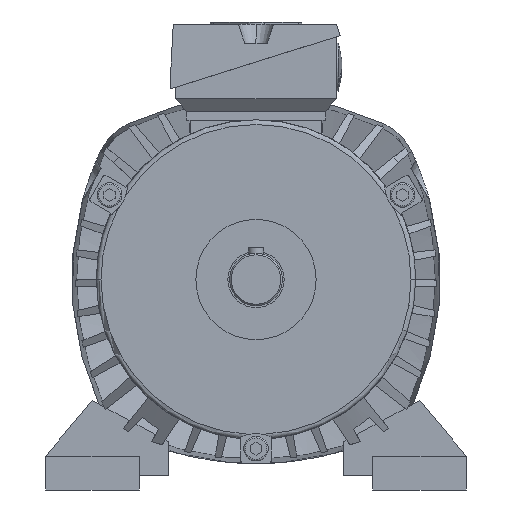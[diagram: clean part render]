
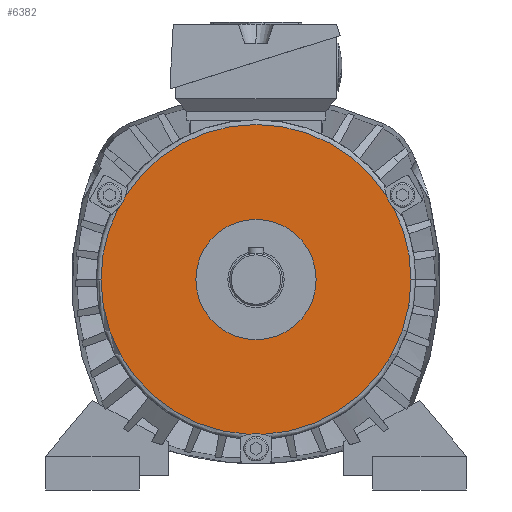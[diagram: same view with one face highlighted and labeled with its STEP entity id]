
A CAD part, front view. The second image highlights one B-rep face of the part: STEP entity #6382.
In plain terms, the highlighted planar face has unit normal (0, -1, 0).
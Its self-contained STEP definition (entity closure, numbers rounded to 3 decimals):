
#2546=VERTEX_POINT('',#7396);
#2630=VERTEX_POINT('',#7491);
#2770=VERTEX_POINT('',#7643);
#3288=EDGE_CURVE('',#3354,#2770,#8212,.T.);
#3354=VERTEX_POINT('',#8291);
#3416=EDGE_CURVE('',#5474,#6082,#8362,.T.);
#3642=EDGE_CURVE('',#2546,#5402,#8610,.T.);
#3882=VERTEX_POINT('',#8874);
#4908=EDGE_CURVE('',#3354,#6006,#9990,.T.);
#5024=EDGE_CURVE('',#3882,#2630,#10112,.T.);
#5402=VERTEX_POINT('',#10519);
#5404=EDGE_CURVE('',#5474,#2770,#10521,.T.);
#5458=VERTEX_POINT('',#10579);
#5474=VERTEX_POINT('',#10596);
#5750=EDGE_CURVE('',#6006,#2630,#10898,.T.);
#5994=EDGE_CURVE('',#5402,#2546,#11164,.T.);
#6006=VERTEX_POINT('',#11176);
#6060=EDGE_CURVE('',#3882,#5458,#11242,.T.);
#6082=VERTEX_POINT('',#11267);
#6382=ADVANCED_FACE('',(#11595,#11596),#11597,.T.);
#6488=EDGE_CURVE('',#5458,#6082,#11715,.T.);
#7396=CARTESIAN_POINT('',(0.,-30.0,-32.0));
#7491=CARTESIAN_POINT('',(3.996,-30.0,-82.403));
#7643=CARTESIAN_POINT('',(69.365,-30.0,44.662));
#8212=CIRCLE('',#14509,20.0);
#8291=CARTESIAN_POINT('',(73.361,-30.0,37.741));
#8362=CIRCLE('',#14720,20.0);
#8610=CIRCLE('',#15061,32.0);
#8874=CARTESIAN_POINT('',(-3.996,-30.0,-82.403));
#9990=CIRCLE('',#17531,82.5);
#10112=CIRCLE('',#17721,20.0);
#10519=CARTESIAN_POINT('',(0.0,-30.0,32.0));
#10521=CIRCLE('',#18425,82.5);
#10579=CARTESIAN_POINT('',(-82.5,-30.0,0.));
#10596=CARTESIAN_POINT('',(-69.365,-30.0,44.662));
#10898=CIRCLE('',#19194,82.5);
#11164=CIRCLE('',#19719,32.0);
#11176=CARTESIAN_POINT('',(82.5,-30.0,0.));
#11242=CIRCLE('',#19862,82.5);
#11267=CARTESIAN_POINT('',(-73.361,-30.0,37.741));
#11595=FACE_BOUND('',#20488,.T.);
#11596=FACE_OUTER_BOUND('',#20489,.T.);
#11597=PLANE('',#20490);
#11715=CIRCLE('',#20678,82.5);
#14509=AXIS2_PLACEMENT_3D('',#23296,#23297,#23298);
#14720=AXIS2_PLACEMENT_3D('',#23519,#23520,#23521);
#15061=AXIS2_PLACEMENT_3D('',#23783,#23784,#23785);
#17531=AXIS2_PLACEMENT_3D('',#25290,#25291,#25292);
#17721=AXIS2_PLACEMENT_3D('',#25384,#25385,#25386);
#18425=AXIS2_PLACEMENT_3D('',#25755,#25756,#25757);
#19194=AXIS2_PLACEMENT_3D('',#26120,#26121,#26122);
#19719=AXIS2_PLACEMENT_3D('',#26377,#26378,#26379);
#19862=AXIS2_PLACEMENT_3D('',#26507,#26508,#26509);
#20488=EDGE_LOOP('',(#26872,#26873));
#20489=EDGE_LOOP('',(#26874,#26875,#26876,#26877,#26878,#26879,#26880,#26881));
#20490=AXIS2_PLACEMENT_3D('',#26882,#26883,#26884);
#20678=AXIS2_PLACEMENT_3D('',#27030,#27031,#27032);
#23296=CARTESIAN_POINT('',(88.335,-30.0,51.0));
#23297=DIRECTION('',(0.0,1.0,-0.0));
#23298=DIRECTION('',(-0.5,0.0,0.866));
#23519=CARTESIAN_POINT('',(-88.335,-30.0,51.0));
#23520=DIRECTION('',(0.0,1.0,0.0));
#23521=DIRECTION('',(-0.5,0.0,-0.866));
#23783=CARTESIAN_POINT('',(0.0,-30.0,0.0));
#23784=DIRECTION('',(0.0,1.0,0.0));
#23785=DIRECTION('',(0.0,0.0,1.0));
#25290=CARTESIAN_POINT('',(0.0,-30.0,0.0));
#25291=DIRECTION('',(0.0,1.0,0.0));
#25292=DIRECTION('',(0.0,0.0,1.0));
#25384=CARTESIAN_POINT('',(0.0,-30.0,-102.0));
#25385=DIRECTION('',(-0.0,1.0,0.0));
#25386=DIRECTION('',(1.0,0.0,0.0));
#25755=CARTESIAN_POINT('',(0.0,-30.0,0.0));
#25756=DIRECTION('',(0.0,1.0,0.0));
#25757=DIRECTION('',(0.0,0.0,1.0));
#26120=CARTESIAN_POINT('',(0.0,-30.0,0.0));
#26121=DIRECTION('',(0.0,1.0,0.0));
#26122=DIRECTION('',(0.0,0.0,1.0));
#26377=CARTESIAN_POINT('',(0.0,-30.0,0.0));
#26378=DIRECTION('',(0.0,1.0,0.0));
#26379=DIRECTION('',(0.0,0.0,1.0));
#26507=CARTESIAN_POINT('',(0.0,-30.0,0.0));
#26508=DIRECTION('',(0.0,1.0,0.0));
#26509=DIRECTION('',(0.0,0.0,1.0));
#26872=ORIENTED_EDGE('',*,*,#5994,.T.);
#26873=ORIENTED_EDGE('',*,*,#3642,.T.);
#26874=ORIENTED_EDGE('',*,*,#3416,.T.);
#26875=ORIENTED_EDGE('',*,*,#6488,.F.);
#26876=ORIENTED_EDGE('',*,*,#6060,.F.);
#26877=ORIENTED_EDGE('',*,*,#5024,.T.);
#26878=ORIENTED_EDGE('',*,*,#5750,.F.);
#26879=ORIENTED_EDGE('',*,*,#4908,.F.);
#26880=ORIENTED_EDGE('',*,*,#3288,.T.);
#26881=ORIENTED_EDGE('',*,*,#5404,.F.);
#26882=CARTESIAN_POINT('',(0.0,-30.0,57.25));
#26883=DIRECTION('',(0.0,-1.0,0.0));
#26884=DIRECTION('',(0.0,0.0,-1.0));
#27030=CARTESIAN_POINT('',(0.0,-30.0,0.0));
#27031=DIRECTION('',(0.0,1.0,0.0));
#27032=DIRECTION('',(0.0,0.0,1.0));
